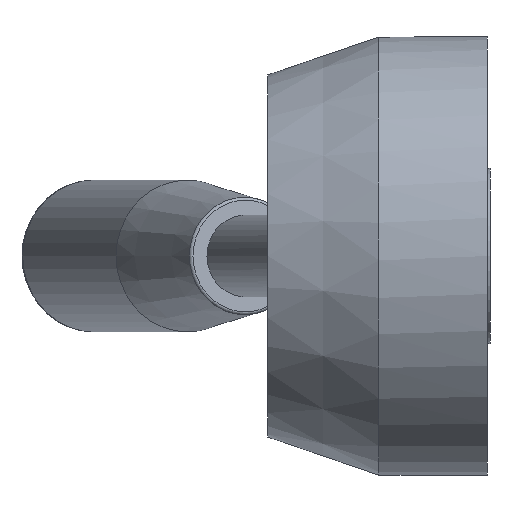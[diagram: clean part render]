
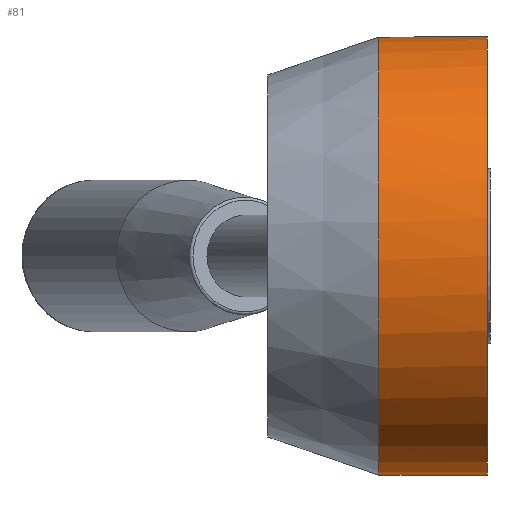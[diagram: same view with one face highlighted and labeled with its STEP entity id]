
A CAD part, left-side view. The second image highlights one B-rep face of the part: STEP entity #81.
In plain terms, the highlighted cylindrical face has radius 37.5 mm (diameter 75 mm), a full revolution.
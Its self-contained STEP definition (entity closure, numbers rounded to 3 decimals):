
#81 = ADVANCED_FACE( '', ( #132, #133 ), #134, .T. );
#132 = FACE_OUTER_BOUND( '', #228, .T. );
#133 = FACE_OUTER_BOUND( '', #229, .T. );
#134 = CYLINDRICAL_SURFACE( '', #230, 37.5 );
#228 = EDGE_LOOP( '', ( #353 ) );
#229 = EDGE_LOOP( '', ( #354, #355, #356, #357 ) );
#230 = AXIS2_PLACEMENT_3D( '', #358, #359, #360 );
#353 = ORIENTED_EDGE( '', *, *, #551, .F. );
#354 = ORIENTED_EDGE( '', *, *, #542, .F. );
#355 = ORIENTED_EDGE( '', *, *, #558, .T. );
#356 = ORIENTED_EDGE( '', *, *, #531, .F. );
#357 = ORIENTED_EDGE( '', *, *, #559, .F. );
#358 = CARTESIAN_POINT( '', ( 0., 0., 0. ) );
#359 = DIRECTION( '', ( 0., 1., 0. ) );
#360 = DIRECTION( '', ( 0., 0., -1. ) );
#531 = EDGE_CURVE( '', #592, #593, #594, .F. );
#542 = EDGE_CURVE( '', #611, #613, #614, .T. );
#551 = EDGE_CURVE( '', #630, #630, #631, .T. );
#558 = EDGE_CURVE( '', #611, #593, #644, .T. );
#559 = EDGE_CURVE( '', #613, #592, #645, .T. );
#592 = VERTEX_POINT( '', #695 );
#593 = VERTEX_POINT( '', #696 );
#594 = LINE( '', #697, #698 );
#611 = VERTEX_POINT( '', #725 );
#613 = VERTEX_POINT( '', #730 );
#614 = LINE( '', #731, #732 );
#630 = VERTEX_POINT( '', #749 );
#631 = CIRCLE( '', #750, 37.5 );
#644 = CIRCLE( '', #763, 37.5 );
#645 = CIRCLE( '', #764, 37.5 );
#695 = CARTESIAN_POINT( '', ( 34.479, 8., -14.745 ) );
#696 = CARTESIAN_POINT( '', ( 34.479, 19., -14.745 ) );
#697 = CARTESIAN_POINT( '', ( 34.479, 0., -14.745 ) );
#698 = VECTOR( '', #822, 1000. );
#725 = CARTESIAN_POINT( '', ( 34.479, 19., 14.745 ) );
#730 = CARTESIAN_POINT( '', ( 34.479, 8., 14.745 ) );
#731 = CARTESIAN_POINT( '', ( 34.479, 0., 14.745 ) );
#732 = VECTOR( '', #833, 1000. );
#749 = CARTESIAN_POINT( '', ( 0., 0.5, -37.5 ) );
#750 = AXIS2_PLACEMENT_3D( '', #856, #857, #858 );
#763 = AXIS2_PLACEMENT_3D( '', #877, #878, #879 );
#764 = AXIS2_PLACEMENT_3D( '', #880, #881, #882 );
#822 = DIRECTION( '', ( 0., -1., 0. ) );
#833 = DIRECTION( '', ( 0., -1., 0. ) );
#856 = CARTESIAN_POINT( '', ( 0., 0.5, 0. ) );
#857 = DIRECTION( '', ( 0., -1., 0. ) );
#858 = DIRECTION( '', ( 0., 0., -1. ) );
#877 = CARTESIAN_POINT( '', ( 0., 19., 0. ) );
#878 = DIRECTION( '', ( 0., -1., 0. ) );
#879 = DIRECTION( '', ( 0., 0., -1. ) );
#880 = CARTESIAN_POINT( '', ( 0., 8., 0. ) );
#881 = DIRECTION( '', ( 0., 1., 0. ) );
#882 = DIRECTION( '', ( 0., 0., 1. ) );
